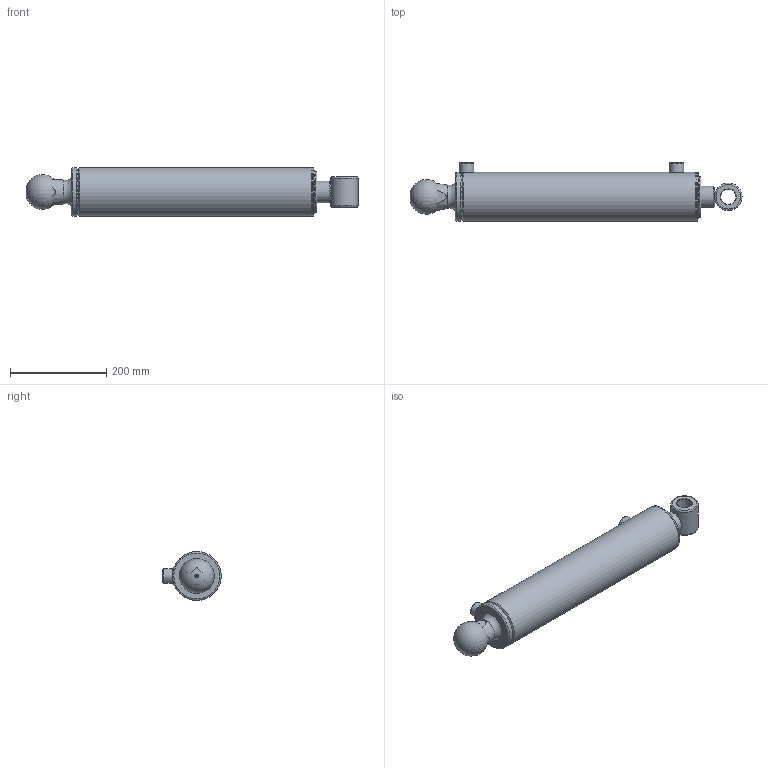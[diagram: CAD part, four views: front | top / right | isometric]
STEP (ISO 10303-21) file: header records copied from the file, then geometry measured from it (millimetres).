
FILE_DESCRIPTION(/* description */ ('Alibre Inc.'),/* implementation_level */ '2;1');
FILE_NAME(/* name */ 'export0',/* time_stamp */ '2016-08-16T10:04:09+12:00',/* author */ (''),/* organization */ (''),/* preprocessor_version */ 'ST-DEVELOPER v14',/* originating_system */ 'Alibre',/* authorisation */ '');
FILE_SCHEMA (('AUTOMOTIVE_DESIGN'));
Length unit declared in the file: centimetre
Bounding box: 690.89 x 121.6 x 101.6 mm (x, y, z)
Volume: 2717748.2 mm3; surface area: 578454.6 mm2
Topology: 12 solids, 12 shells, 148 faces, 306 edges, 191 vertices
Faces by surface type: cylinder 57, plane 48, cone 26, torus 16, bspline 1
Full cylindrical faces by diameter (mm): 7 x1, 8.3 x2, 8.4 x1, 12.7 x2, 19.1 x2, 29.35 x1, 29.972 x1, 30 x2, 31.75 x1, 31.8 x1, 31.801 x1, 44.45 x2, 44.53 x2, 50.8 x1, 53.25 x2, 53.97 x2, 57.15 x1, 73.03 x1, 81.9 x1, 83.06 x1, 84.3 x2, 85.27 x2, 85.5 x1, 87.53 x2, 88.75 x1, 88.79 x2, 88.9 x2, 92.1 x1, 101.6 x3
Entity records: 4071 total; most frequent: CARTESIAN_POINT 1180, DIRECTION 562, ORIENTED_EDGE 372, AXIS2_PLACEMENT_3D 297, FACE_BOUND 270, EDGE_LOOP 267, EDGE_CURVE 186, VERTEX_POINT 166
